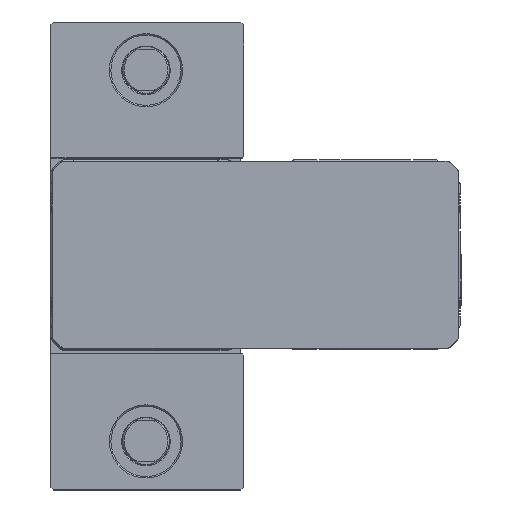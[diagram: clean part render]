
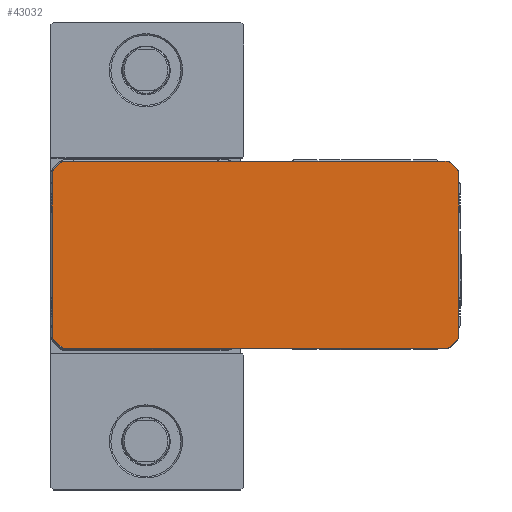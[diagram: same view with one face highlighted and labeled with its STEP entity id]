
A CAD part, top view. The second image highlights one B-rep face of the part: STEP entity #43032.
In plain terms, the highlighted planar face has unit normal (0, 0, 1).
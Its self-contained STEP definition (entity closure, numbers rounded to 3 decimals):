
#297 = CARTESIAN_POINT ( 'NONE',  ( -28., -30.5, 244. ) ) ;
#360 = EDGE_CURVE ( 'NONE', #34073, #38690, #22316, .T. ) ;
#776 = LINE ( 'NONE', #7235, #9020 ) ;
#1098 = VERTEX_POINT ( 'NONE', #41953 ) ;
#2159 = CIRCLE ( 'NONE', #3047, 1.5 ) ;
#2441 = EDGE_CURVE ( 'NONE', #40556, #37919, #18297, .T. ) ;
#2464 = DIRECTION ( 'NONE',  ( 1., 0., 0. ) ) ;
#2538 = DIRECTION ( 'NONE',  ( 0., -1., 0. ) ) ;
#2679 = CARTESIAN_POINT ( 'NONE',  ( -30.5, 28., 244. ) ) ;
#2709 = CARTESIAN_POINT ( 'NONE',  ( -28., -32., 244. ) ) ;
#3047 = AXIS2_PLACEMENT_3D ( 'NONE', #2679, #27186, #6213 ) ;
#3093 = DIRECTION ( 'NONE',  ( 0., 0., 1. ) ) ;
#3273 = CIRCLE ( 'NONE', #26101, 1.5 ) ;
#3534 = CIRCLE ( 'NONE', #29345, 1.5 ) ;
#3830 = DIRECTION ( 'NONE',  ( 1., 0., 0. ) ) ;
#4292 = VECTOR ( 'NONE', #27695, 1000. ) ;
#5168 = VERTEX_POINT ( 'NONE', #7867 ) ;
#5180 = AXIS2_PLACEMENT_3D ( 'NONE', #9964, #34364, #13486 ) ;
#5415 = AXIS2_PLACEMENT_3D ( 'NONE', #40148, #19251, #43664 ) ;
#5478 = CARTESIAN_POINT ( 'NONE',  ( 106.561, -29.061, 244. ) ) ;
#5664 = EDGE_CURVE ( 'NONE', #1098, #7769, #776, .T. ) ;
#6213 = DIRECTION ( 'NONE',  ( 1., 0., 0. ) ) ;
#6559 = VECTOR ( 'NONE', #24754, 1000. ) ;
#6598 = CARTESIAN_POINT ( 'NONE',  ( 104.061, -31.561, 244. ) ) ;
#6975 = ORIENTED_EDGE ( 'NONE', *, *, #36974, .T. ) ;
#7001 = ORIENTED_EDGE ( 'NONE', *, *, #17681, .T. ) ;
#7029 = DIRECTION ( 'NONE',  ( 0.707, -0.707, 0. ) ) ;
#7030 = ORIENTED_EDGE ( 'NONE', *, *, #21475, .T. ) ;
#7235 = CARTESIAN_POINT ( 'NONE',  ( 103., 32., 244. ) ) ;
#7302 = ORIENTED_EDGE ( 'NONE', *, *, #34035, .T. ) ;
#7539 = LINE ( 'NONE', #24435, #33201 ) ;
#7688 = ORIENTED_EDGE ( 'NONE', *, *, #33776, .T. ) ;
#7769 = VERTEX_POINT ( 'NONE', #37861 ) ;
#7867 = CARTESIAN_POINT ( 'NONE',  ( -32., -28., 244. ) ) ;
#8315 = VECTOR ( 'NONE', #7029, 1000. ) ;
#8422 = VERTEX_POINT ( 'NONE', #45302 ) ;
#8566 = VERTEX_POINT ( 'NONE', #32123 ) ;
#9020 = VECTOR ( 'NONE', #10776, 1000. ) ;
#9964 = CARTESIAN_POINT ( 'NONE',  ( 103., -30.5, 244. ) ) ;
#10333 = CIRCLE ( 'NONE', #25835, 1.5 ) ;
#10340 = CARTESIAN_POINT ( 'NONE',  ( -29.061, 31.561, 244. ) ) ;
#10444 = ORIENTED_EDGE ( 'NONE', *, *, #2441, .T. ) ;
#10776 = DIRECTION ( 'NONE',  ( -1., 0., 0. ) ) ;
#11082 = CIRCLE ( 'NONE', #42852, 1.5 ) ;
#11597 = PLANE ( 'NONE',  #16752 ) ;
#12062 = VERTEX_POINT ( 'NONE', #20370 ) ;
#12132 = EDGE_CURVE ( 'NONE', #21658, #41502, #22935, .T. ) ;
#13055 = VECTOR ( 'NONE', #41218, 1000. ) ;
#13486 = DIRECTION ( 'NONE',  ( 1., 0., 0. ) ) ;
#13603 = EDGE_CURVE ( 'NONE', #33049, #8566, #7539, .T. ) ;
#14127 = EDGE_LOOP ( 'NONE', ( #42160, #7001, #7302, #14308, #7030, #36339, #37173, #44753, #40433, #6975, #38793, #40497, #7688, #10444, #39206, #22041 ) ) ;
#14308 = ORIENTED_EDGE ( 'NONE', *, *, #360, .T. ) ;
#15111 = DIRECTION ( 'NONE',  ( 0., 0., 1. ) ) ;
#15434 = CARTESIAN_POINT ( 'NONE',  ( -31.561, -29.061, 244. ) ) ;
#15870 = LINE ( 'NONE', #31467, #6559 ) ;
#16752 = AXIS2_PLACEMENT_3D ( 'NONE', #35973, #15111, #39516 ) ;
#17681 = EDGE_CURVE ( 'NONE', #25738, #12062, #26959, .T. ) ;
#18137 = CARTESIAN_POINT ( 'NONE',  ( 103., 30.5, 244. ) ) ;
#18145 = VERTEX_POINT ( 'NONE', #19290 ) ;
#18297 = LINE ( 'NONE', #37992, #35703 ) ;
#18884 = EDGE_CURVE ( 'NONE', #37919, #18145, #2159, .T. ) ;
#19236 = CARTESIAN_POINT ( 'NONE',  ( 107., -28., 244. ) ) ;
#19251 = DIRECTION ( 'NONE',  ( 0., 0., 1. ) ) ;
#19290 = CARTESIAN_POINT ( 'NONE',  ( -32., 28., 244. ) ) ;
#20227 = CARTESIAN_POINT ( 'NONE',  ( 105.5, 28., 244. ) ) ;
#20370 = CARTESIAN_POINT ( 'NONE',  ( -29.061, -31.561, 244. ) ) ;
#21201 = VECTOR ( 'NONE', #2538, 1000. ) ;
#21244 = CARTESIAN_POINT ( 'NONE',  ( 104.061, -31.561, 244. ) ) ;
#21411 = CARTESIAN_POINT ( 'NONE',  ( 103., -32., 244. ) ) ;
#21475 = EDGE_CURVE ( 'NONE', #38690, #21658, #30446, .T. ) ;
#21623 = DIRECTION ( 'NONE',  ( 1., 0., 0. ) ) ;
#21658 = VERTEX_POINT ( 'NONE', #21244 ) ;
#21851 = VERTEX_POINT ( 'NONE', #43354 ) ;
#22041 = ORIENTED_EDGE ( 'NONE', *, *, #25900, .T. ) ;
#22316 = LINE ( 'NONE', #2709, #13055 ) ;
#22935 = LINE ( 'NONE', #6598, #4292 ) ;
#23447 = DIRECTION ( 'NONE',  ( 0., 0., 1. ) ) ;
#23521 = CARTESIAN_POINT ( 'NONE',  ( -32., 28., 244. ) ) ;
#23720 = DIRECTION ( 'NONE',  ( 1., 0., 0. ) ) ;
#24070 = CARTESIAN_POINT ( 'NONE',  ( 105.5, -28., 244. ) ) ;
#24415 = EDGE_CURVE ( 'NONE', #8422, #1098, #3273, .T. ) ;
#24435 = CARTESIAN_POINT ( 'NONE',  ( 107., -28., 244. ) ) ;
#24754 = DIRECTION ( 'NONE',  ( -0.707, 0.707, 0. ) ) ;
#24781 = DIRECTION ( 'NONE',  ( 0., 0., 1. ) ) ;
#25287 = EDGE_CURVE ( 'NONE', #8566, #21851, #10333, .T. ) ;
#25738 = VERTEX_POINT ( 'NONE', #15434 ) ;
#25835 = AXIS2_PLACEMENT_3D ( 'NONE', #20227, #44642, #23720 ) ;
#25900 = EDGE_CURVE ( 'NONE', #18145, #5168, #30499, .T. ) ;
#26101 = AXIS2_PLACEMENT_3D ( 'NONE', #18137, #42555, #21623 ) ;
#26959 = LINE ( 'NONE', #38475, #8315 ) ;
#27186 = DIRECTION ( 'NONE',  ( 0., 0., 1. ) ) ;
#27583 = DIRECTION ( 'NONE',  ( 1., 0., 0. ) ) ;
#27695 = DIRECTION ( 'NONE',  ( 0.707, 0.707, 0. ) ) ;
#29345 = AXIS2_PLACEMENT_3D ( 'NONE', #297, #24781, #3830 ) ;
#30446 = CIRCLE ( 'NONE', #5180, 1.5 ) ;
#30499 = LINE ( 'NONE', #23521, #21201 ) ;
#31467 = CARTESIAN_POINT ( 'NONE',  ( 106.561, 29.061, 244. ) ) ;
#31929 = CARTESIAN_POINT ( 'NONE',  ( -28., -32., 244. ) ) ;
#32123 = CARTESIAN_POINT ( 'NONE',  ( 107., 28., 244. ) ) ;
#32735 = CIRCLE ( 'NONE', #5415, 1.5 ) ;
#33049 = VERTEX_POINT ( 'NONE', #19236 ) ;
#33201 = VECTOR ( 'NONE', #38462, 1000. ) ;
#33776 = EDGE_CURVE ( 'NONE', #7769, #40556, #42401, .T. ) ;
#34035 = EDGE_CURVE ( 'NONE', #12062, #34073, #3534, .T. ) ;
#34073 = VERTEX_POINT ( 'NONE', #31929 ) ;
#34327 = DIRECTION ( 'NONE',  ( -0.707, -0.707, 0. ) ) ;
#34364 = DIRECTION ( 'NONE',  ( 0., 0., 1. ) ) ;
#35467 = EDGE_CURVE ( 'NONE', #41502, #33049, #11082, .T. ) ;
#35703 = VECTOR ( 'NONE', #34327, 1000. ) ;
#35973 = CARTESIAN_POINT ( 'NONE',  ( -30.5, -28., 244. ) ) ;
#36339 = ORIENTED_EDGE ( 'NONE', *, *, #12132, .T. ) ;
#36974 = EDGE_CURVE ( 'NONE', #21851, #8422, #15870, .T. ) ;
#37173 = ORIENTED_EDGE ( 'NONE', *, *, #35467, .T. ) ;
#37209 = AXIS2_PLACEMENT_3D ( 'NONE', #44363, #23447, #2464 ) ;
#37238 = EDGE_CURVE ( 'NONE', #5168, #25738, #32735, .T. ) ;
#37861 = CARTESIAN_POINT ( 'NONE',  ( -28., 32., 244. ) ) ;
#37919 = VERTEX_POINT ( 'NONE', #40394 ) ;
#37992 = CARTESIAN_POINT ( 'NONE',  ( -29.061, 31.561, 244. ) ) ;
#38462 = DIRECTION ( 'NONE',  ( 0., 1., 0. ) ) ;
#38475 = CARTESIAN_POINT ( 'NONE',  ( -31.561, -29.061, 244. ) ) ;
#38690 = VERTEX_POINT ( 'NONE', #21411 ) ;
#38793 = ORIENTED_EDGE ( 'NONE', *, *, #24415, .T. ) ;
#39206 = ORIENTED_EDGE ( 'NONE', *, *, #18884, .T. ) ;
#39516 = DIRECTION ( 'NONE',  ( 1., 0., 0. ) ) ;
#40148 = CARTESIAN_POINT ( 'NONE',  ( -30.5, -28., 244. ) ) ;
#40394 = CARTESIAN_POINT ( 'NONE',  ( -31.561, 29.061, 244. ) ) ;
#40433 = ORIENTED_EDGE ( 'NONE', *, *, #25287, .T. ) ;
#40497 = ORIENTED_EDGE ( 'NONE', *, *, #5664, .T. ) ;
#40556 = VERTEX_POINT ( 'NONE', #10340 ) ;
#41218 = DIRECTION ( 'NONE',  ( 1., 0., 0. ) ) ;
#41502 = VERTEX_POINT ( 'NONE', #5478 ) ;
#41953 = CARTESIAN_POINT ( 'NONE',  ( 103., 32., 244. ) ) ;
#42160 = ORIENTED_EDGE ( 'NONE', *, *, #37238, .T. ) ;
#42401 = CIRCLE ( 'NONE', #37209, 1.5 ) ;
#42487 = FACE_OUTER_BOUND ( 'NONE', #14127, .T. ) ;
#42555 = DIRECTION ( 'NONE',  ( 0., 0., 1. ) ) ;
#42852 = AXIS2_PLACEMENT_3D ( 'NONE', #24070, #3093, #27583 ) ;
#43032 = ADVANCED_FACE ( 'NONE', ( #42487 ), #11597, .T. ) ;
#43354 = CARTESIAN_POINT ( 'NONE',  ( 106.561, 29.061, 244. ) ) ;
#43664 = DIRECTION ( 'NONE',  ( 1., 0., 0. ) ) ;
#44363 = CARTESIAN_POINT ( 'NONE',  ( -28., 30.5, 244. ) ) ;
#44642 = DIRECTION ( 'NONE',  ( 0., 0., 1. ) ) ;
#44753 = ORIENTED_EDGE ( 'NONE', *, *, #13603, .T. ) ;
#45302 = CARTESIAN_POINT ( 'NONE',  ( 104.061, 31.561, 244. ) ) ;
